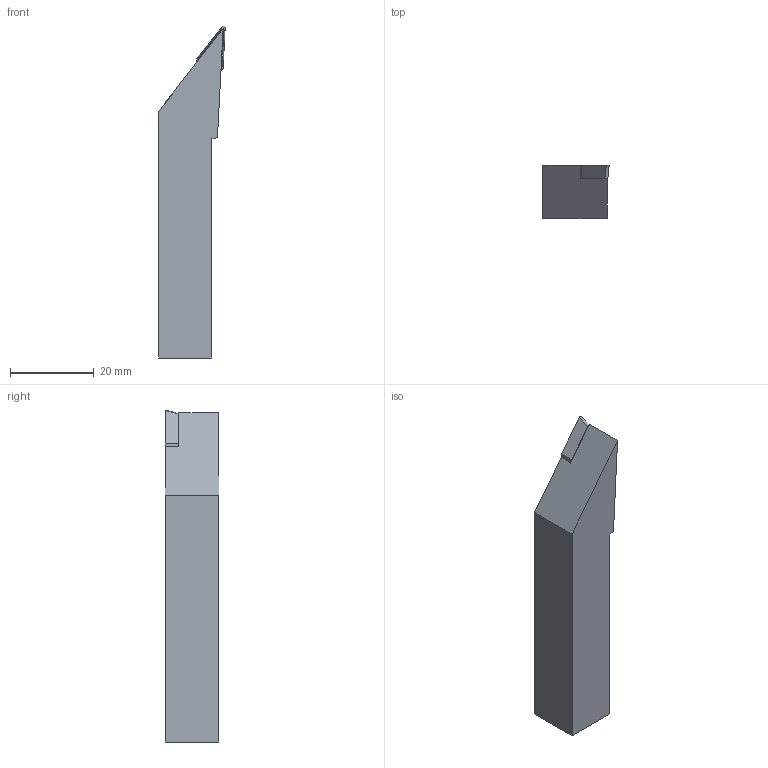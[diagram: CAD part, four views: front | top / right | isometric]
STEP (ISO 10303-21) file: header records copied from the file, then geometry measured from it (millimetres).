
FILE_DESCRIPTION (( 'STEP AP203' ), '1' );
FILE_NAME ('SVJBR08-2K-HAAS.STEP', '2020-11-06T07:14:03', ( '' ), ( '' ), 'SwSTEP 2.0', 'SolidWorks 2015', '' );
FILE_SCHEMA (( 'CONFIG_CONTROL_DESIGN' ));
Length unit declared in the file: millimetre
Products named in the file (4): SVJBR08-2K-HAAS_ル遽; VBMT110304_ル遽; SVJBR08-2K-HAAS
Assembly tree (3 placements, depth 3):
  SVJBR08-2K-HAAS
    SVJBR08-2K-HAAS
      SVJBR08-2K-HAAS_ル遽
      VBMT110304_ル遽
Bounding box: 15.87 x 12.7 x 79.37 mm (x, y, z)
Volume: 11428.2 mm3; surface area: 4310.2 mm2
Topology: 2 solids, 2 shells, 21 faces, 50 edges, 33 vertices
Faces by surface type: plane 17, cylinder 3, cone 1
Full cylindrical faces by diameter (mm): 2.9 x1
Entity records: 1011 total; most frequent: CARTESIAN_POINT 121, DIRECTION 103, ORIENTED_EDGE 96, EDGE_CURVE 48, VECTOR 41, LINE 41, PERSON_AND_ORGANIZATION 35, VERTEX_POINT 33
